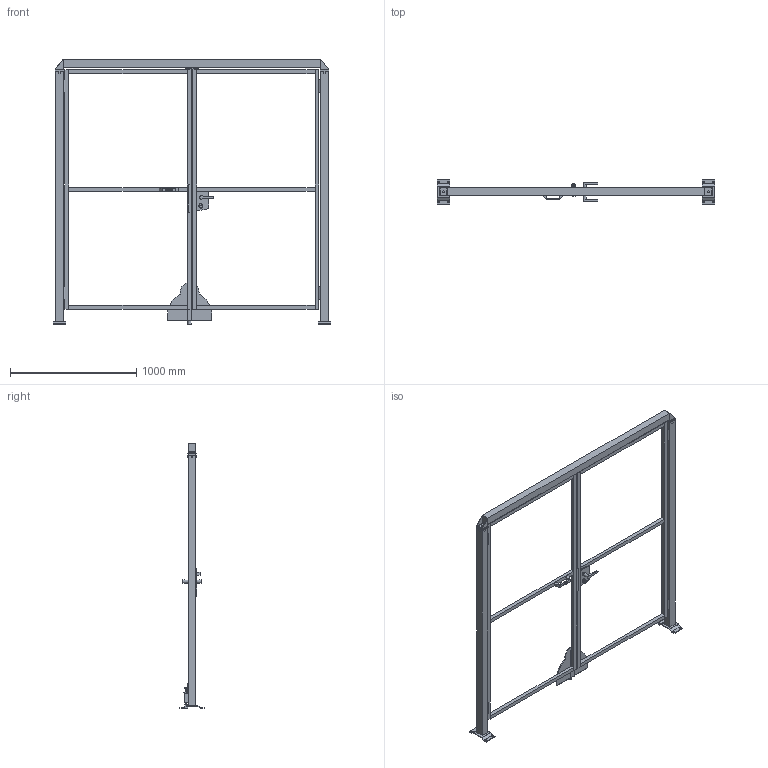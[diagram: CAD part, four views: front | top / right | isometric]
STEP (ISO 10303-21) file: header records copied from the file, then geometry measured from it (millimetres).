
FILE_DESCRIPTION(/* description */ (''),/* implementation_level */ '2;1');
FILE_NAME(/* name */ 'C:\SafeGuarding\ELABORATI\VZOR§GAMMA_2025-02-03-10-59-33.stp',/* time_stamp */ '2025-02-03T10:59:37+01:00',/* author */ ('admin'),/* organization */ (''),/* preprocessor_version */ 'ST-DEVELOPER v18.1',/* originating_system */ 'AutoCAD Mechanical',/* authorisation */ '');
FILE_SCHEMA (('AUTOMOTIVE_DESIGN { 1 0 10303 214 3 1 1 }'));
Length unit declared in the file: millimetre
Products named in the file (5): Product; *U6; DATI_PORTA; P_VFMA.ME60SDU.2020; R_VFPA.REPE30.10001900
Assembly tree (6 placements, depth 2):
  Product
    R_VFPA.REPE30.10001900  x2
    P_VFMA.ME60SDU.2020  x2
    *U6
    DATI_PORTA
Bounding box: 2205 x 192 x 2100.5 mm (x, y, z)
Volume: 35521669.5 mm3; surface area: 3756983.9 mm2
Topology: 40 solids, 51 shells, 473 faces, 1453 edges, 1372 vertices
Faces by surface type: plane 397, cylinder 71, bspline 4, cone 1
Full cylindrical faces by diameter (mm): 11 x25, 14 x2, 24 x1, 25 x2, 25.398 x2
Entity records: 14602 total; most frequent: CARTESIAN_POINT 4054, DIRECTION 2057, ORIENTED_EDGE 1924, EDGE_CURVE 1011, LINE 875, VECTOR 875, VERTEX_POINT 710, AXIS2_PLACEMENT_3D 591
